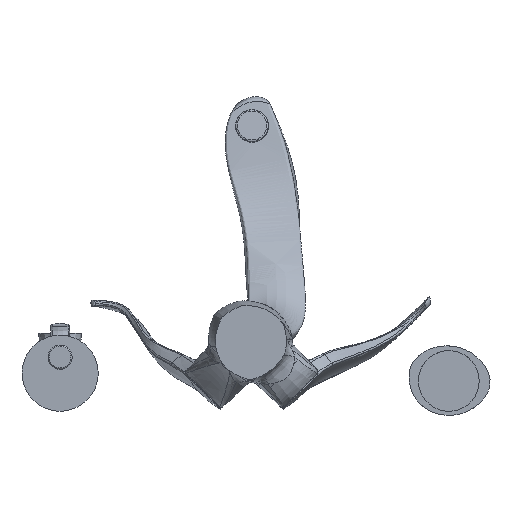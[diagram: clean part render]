
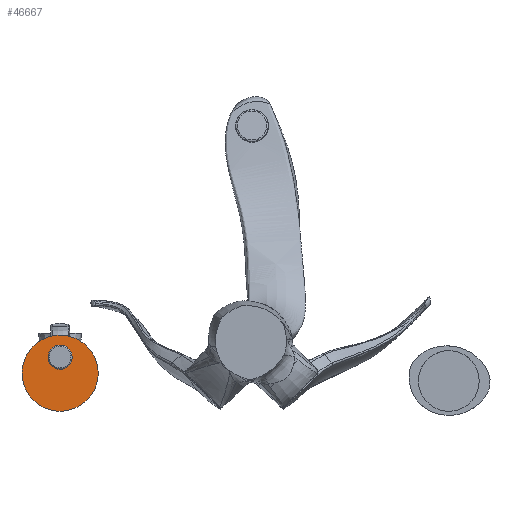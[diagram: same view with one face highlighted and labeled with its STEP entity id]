
A CAD part, front view. The second image highlights one B-rep face of the part: STEP entity #46667.
In plain terms, the highlighted planar face has unit normal (0, -1, 0).
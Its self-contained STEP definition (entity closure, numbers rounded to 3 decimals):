
#3915 = CARTESIAN_POINT ( 'NONE',  ( -183.317, 0.5, -49.066 ) ) ;
#4021 = CARTESIAN_POINT ( 'NONE',  ( -183.322, 0.5, -3.532 ) ) ;
#4569 = CARTESIAN_POINT ( 'NONE',  ( -128.544, 0.5, -26.302 ) ) ;
#7117 = DIRECTION ( 'NONE',  ( 1., 0., 0. ) ) ;
#12197 = FACE_OUTER_BOUND ( 'NONE', #81094, .T. ) ;
#12387 = FACE_BOUND ( 'NONE', #81468, .T. ) ;
#18449 = CARTESIAN_POINT ( 'NONE',  ( -128.956, 0.5, -20.012 ) ) ;
#18990 = CARTESIAN_POINT ( 'NONE',  ( -172.874, 0.5, -56.046 ) ) ;
#19096 = CARTESIAN_POINT ( 'NONE',  ( -190.303, 0.5, -13.983 ) ) ;
#29217 = EDGE_CURVE ( 'NONE', #48831, #49766, #158166, .T. ) ;
#33368 = CARTESIAN_POINT ( 'NONE',  ( -192.543, 0.5, -28.393 ) ) ;
#33478 = CARTESIAN_POINT ( 'NONE',  ( -133.766, 0.5, -8.404 ) ) ;
#34020 = CARTESIAN_POINT ( 'NONE',  ( -160.551, 0.5, -58.501 ) ) ;
#34125 = CARTESIAN_POINT ( 'NONE',  ( -192.543, 0.5, -24.21 ) ) ;
#36558 = CARTESIAN_POINT ( 'NONE',  ( -192.543, 0.5, 5.698 ) ) ;
#46667 = ADVANCED_FACE ( 'NONE', ( #12387, #12197 ), #185612, .T. ) ;
#48497 = CARTESIAN_POINT ( 'NONE',  ( -142.656, 0.5, 0.482 ) ) ;
#48831 = VERTEX_POINT ( 'NONE', #161835 ) ;
#49044 = CARTESIAN_POINT ( 'NONE',  ( -148.234, 0.5, -56.056 ) ) ;
#49766 = VERTEX_POINT ( 'NONE', #148185 ) ;
#63407 = CARTESIAN_POINT ( 'NONE',  ( -192.131, 0.5, -32.577 ) ) ;
#63516 = CARTESIAN_POINT ( 'NONE',  ( -154.266, 0.5, 5.287 ) ) ;
#64061 = CARTESIAN_POINT ( 'NONE',  ( -137.782, 0.5, -49.079 ) ) ;
#66766 = ORIENTED_EDGE ( 'NONE', *, *, #146511, .F. ) ;
#68438 = ORIENTED_EDGE ( 'NONE', *, *, #100404, .T. ) ;
#69812 = ORIENTED_EDGE ( 'NONE', *, *, #29217, .T. ) ;
#70555 = DIRECTION ( 'NONE',  ( 0., -1., 0. ) ) ;
#78439 = CARTESIAN_POINT ( 'NONE',  ( -192.543, 0.5, -26.302 ) ) ;
#78546 = CARTESIAN_POINT ( 'NONE',  ( -166.836, 0.5, 5.284 ) ) ;
#79093 = CARTESIAN_POINT ( 'NONE',  ( -130.792, 0.5, -38.626 ) ) ;
#81094 = EDGE_LOOP ( 'NONE', ( #68438, #69812 ) ) ;
#81468 = EDGE_LOOP ( 'NONE', ( #66766 ) ) ;
#82515 = AXIS2_PLACEMENT_3D ( 'NONE', #36558, #96612, #7117 ) ;
#89957 = CARTESIAN_POINT ( 'NONE',  ( -160.543, 0.5, -22.954 ) ) ;
#93425 = CARTESIAN_POINT ( 'NONE',  ( -187.319, 0.5, -44.188 ) ) ;
#93530 = CARTESIAN_POINT ( 'NONE',  ( -178.446, 0.5, 0.471 ) ) ;
#94071 = CARTESIAN_POINT ( 'NONE',  ( -128.544, 0.5, -28.397 ) ) ;
#96612 = DIRECTION ( 'NONE',  ( 0., -1., 0. ) ) ;
#100404 = EDGE_CURVE ( 'NONE', #49766, #48831, #125059, .T. ) ;
#108399 = CARTESIAN_POINT ( 'NONE',  ( -178.436, 0.5, -53.072 ) ) ;
#108506 = CARTESIAN_POINT ( 'NONE',  ( -187.325, 0.5, -8.409 ) ) ;
#122824 = CARTESIAN_POINT ( 'NONE',  ( -130.787, 0.5, -13.976 ) ) ;
#123365 = CARTESIAN_POINT ( 'NONE',  ( -166.831, 0.5, -57.881 ) ) ;
#123471 = CARTESIAN_POINT ( 'NONE',  ( -192.133, 0.5, -20.026 ) ) ;
#125059 = B_SPLINE_CURVE_WITH_KNOTS ( 'NONE', 3,
 ( #176166, #181885, #18449, #122824, #33478, #137713, #48497, #152645, #63516, #167574, #78546, #182531, #93530, #4021, #108506, #19096, #123471, #34125, #138365 ),
 .UNSPECIFIED., .F., .F.,
 ( 4, 1, 1, 1, 1, 1, 1, 1, 1, 1, 1, 1, 1, 1, 1, 1, 4 ),
 ( 0., 0.063, 0.125, 0.188, 0.25, 0.313, 0.375, 0.438, 0.5, 0.563, 0.625, 0.688, 0.75, 0.813, 0.875, 0.938, 1. ),
 .UNSPECIFIED. ) ;
#131645 = AXIS2_PLACEMENT_3D ( 'NONE', #159650, #70555, #174596 ) ;
#137713 = CARTESIAN_POINT ( 'NONE',  ( -137.769, 0.5, -3.526 ) ) ;
#138256 = CARTESIAN_POINT ( 'NONE',  ( -154.265, 0.5, -57.882 ) ) ;
#138365 = CARTESIAN_POINT ( 'NONE',  ( -192.543, 0.5, -26.302 ) ) ;
#146511 = EDGE_CURVE ( 'NONE', #147993, #147993, #168107, .T. ) ;
#147993 = VERTEX_POINT ( 'NONE', #89957 ) ;
#148185 = CARTESIAN_POINT ( 'NONE',  ( -128.544, 0.5, -26.302 ) ) ;
#152645 = CARTESIAN_POINT ( 'NONE',  ( -148.224, 0.5, 3.456 ) ) ;
#153194 = CARTESIAN_POINT ( 'NONE',  ( -142.648, 0.5, -53.071 ) ) ;
#158166 = B_SPLINE_CURVE_WITH_KNOTS ( 'NONE', 3,
 ( #78439, #33368, #63407, #182424, #93425, #3915, #108399, #18990, #123365, #34020, #138256, #49044, #153194, #64061, #168117, #79093, #183078, #94071, #4569 ),
 .UNSPECIFIED., .F., .F.,
 ( 4, 1, 1, 1, 1, 1, 1, 1, 1, 1, 1, 1, 1, 1, 1, 1, 4 ),
 ( 0., 0.062, 0.125, 0.187, 0.25, 0.312, 0.375, 0.437, 0.5, 0.562, 0.625, 0.687, 0.75, 0.812, 0.875, 0.937, 1. ),
 .UNSPECIFIED. ) ;
#159650 = CARTESIAN_POINT ( 'NONE',  ( -160.543, 0.5, -12.802 ) ) ;
#161835 = CARTESIAN_POINT ( 'NONE',  ( -192.543, 0.5, -26.302 ) ) ;
#167574 = CARTESIAN_POINT ( 'NONE',  ( -160.55, 0.5, 5.904 ) ) ;
#168107 = CIRCLE ( 'NONE', #131645, 10.152 ) ;
#168117 = CARTESIAN_POINT ( 'NONE',  ( -133.766, 0.5, -44.189 ) ) ;
#174596 = DIRECTION ( 'NONE',  ( 0., 0., -1. ) ) ;
#176166 = CARTESIAN_POINT ( 'NONE',  ( -128.544, 0.5, -26.302 ) ) ;
#181885 = CARTESIAN_POINT ( 'NONE',  ( -128.543, 0.5, -24.207 ) ) ;
#182424 = CARTESIAN_POINT ( 'NONE',  ( -190.294, 0.5, -38.628 ) ) ;
#182531 = CARTESIAN_POINT ( 'NONE',  ( -172.879, 0.5, 3.449 ) ) ;
#183078 = CARTESIAN_POINT ( 'NONE',  ( -128.957, 0.5, -32.581 ) ) ;
#185612 = PLANE ( 'NONE',  #82515 ) ;
